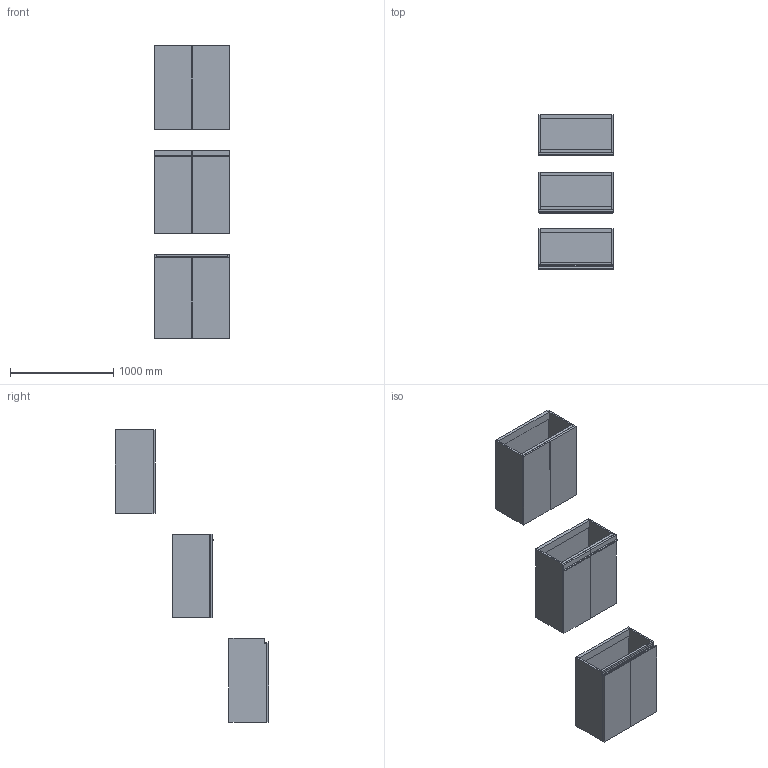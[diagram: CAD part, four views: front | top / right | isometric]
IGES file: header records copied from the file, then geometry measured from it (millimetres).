
Start section: Data from Parasolid IGES Translator 19.0.9, Copyright(c) 2006 Siemens PL M Software. All Rights Reserved.
Global section: file name: noorth-SI-H 81,2 D 38,8 W 72_8680.igs; native system: By Siemens PLM Incorporated; preprocessor: XPlus GENERIC/IGES 19.0.9; author: Noname; organization: Noname; date: 20200601.122945; units: metre
Bounding box: 720 x 1486.1 x 2832.01 mm (x, y, z)
Volume: 83930701.4 mm3; surface area: 13110746.3 mm2
Topology: 27 solids, 27 shells, 264 faces, 574 edges, 340 vertices
Faces by surface type: plane 180, cylinder 52, sphere 20, torus 12
